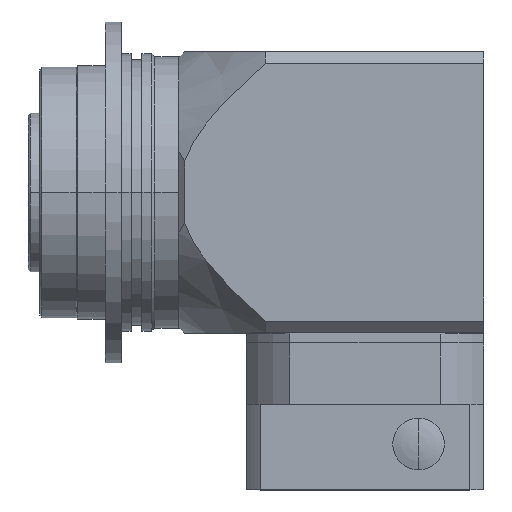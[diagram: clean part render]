
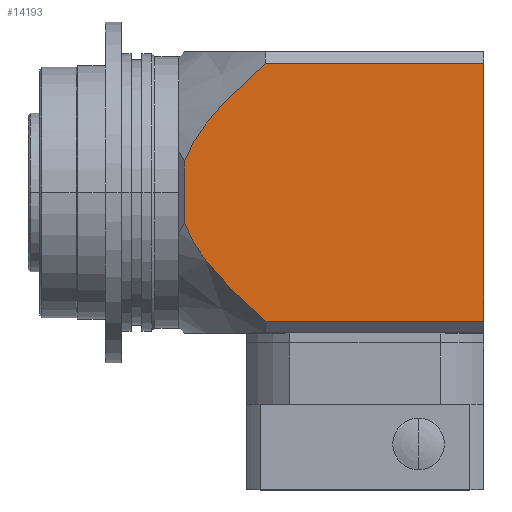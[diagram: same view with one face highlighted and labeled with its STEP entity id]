
A CAD part, top view. The second image highlights one B-rep face of the part: STEP entity #14193.
In plain terms, the highlighted planar face has unit normal (0, 0, 1).
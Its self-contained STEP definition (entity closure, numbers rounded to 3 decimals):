
#768 = CARTESIAN_POINT ( 'NONE',  ( 12.062, 23.364, 35.5 ) ) ;
#928 = VERTEX_POINT ( 'NONE', #12986 ) ;
#1100 = CARTESIAN_POINT ( 'NONE',  ( 19.839, -30.758, 35.5 ) ) ;
#1252 = VERTEX_POINT ( 'NONE', #7392 ) ;
#1969 = VERTEX_POINT ( 'NONE', #13948 ) ;
#2212 = FACE_OUTER_BOUND ( 'NONE', #17069, .T. ) ;
#2315 = DIRECTION ( 'NONE',  ( -1., 0., 0. ) ) ;
#2496 = CARTESIAN_POINT ( 'NONE',  ( 8.501, 19.324, 35.5 ) ) ;
#2566 = ORIENTED_EDGE ( 'NONE', *, *, #3447, .T. ) ;
#2757 = CARTESIAN_POINT ( 'NONE',  ( 3.821, -12.758, 35.5 ) ) ;
#3325 = ORIENTED_EDGE ( 'NONE', *, *, #9839, .T. ) ;
#3447 = EDGE_CURVE ( 'NONE', #18143, #1969, #18177, .T. ) ;
#4224 = CARTESIAN_POINT ( 'NONE',  ( 6.023, 16.126, 35.5 ) ) ;
#4473 = CARTESIAN_POINT ( 'NONE',  ( 5.664, -15.593, 35.5 ) ) ;
#4848 = B_SPLINE_CURVE_WITH_KNOTS ( 'NONE', 3,
 ( #7633, #17949, #21389, #11083, #768, #12808, #2496, #14518, #4224, #16264, #5952, #18012, #7716, #19731, #9443, #21461 ),
 .UNSPECIFIED., .F., .F.,
 ( 4, 2, 2, 2, 2, 2, 2, 4 ),
 ( 0.054, 0.063, 0.071, 0.075, 0.079, 0.083, 0.085, 0.087 ),
 .UNSPECIFIED. ) ;
#5471 = VECTOR ( 'NONE', #2315, 1000. ) ;
#5647 = ORIENTED_EDGE ( 'NONE', *, *, #18904, .T. ) ;
#5952 = CARTESIAN_POINT ( 'NONE',  ( 3.815, 12.749, 35.5 ) ) ;
#6208 = CARTESIAN_POINT ( 'NONE',  ( 6.862, -17.241, 35.5 ) ) ;
#6844 = LINE ( 'NONE', #13976, #11976 ) ;
#7138 = DIRECTION ( 'NONE',  ( 0., -1., 0. ) ) ;
#7175 = CARTESIAN_POINT ( 'NONE',  ( 0., 0., 35.5 ) ) ;
#7223 = ORIENTED_EDGE ( 'NONE', *, *, #19290, .T. ) ;
#7294 = EDGE_CURVE ( 'NONE', #21164, #18143, #21263, .T. ) ;
#7392 = CARTESIAN_POINT ( 'NONE',  ( 1.5, -7.889, 35.5 ) ) ;
#7633 = CARTESIAN_POINT ( 'NONE',  ( 21.876, 32.5, 35.5 ) ) ;
#7716 = CARTESIAN_POINT ( 'NONE',  ( 2.554, 10.355, 35.5 ) ) ;
#7980 = CARTESIAN_POINT ( 'NONE',  ( 8.532, -19.362, 35.5 ) ) ;
#8503 = VECTOR ( 'NONE', #14085, 1000. ) ;
#8852 = B_SPLINE_CURVE_WITH_KNOTS ( 'NONE', 3,
 ( #9637, #19914, #13075, #2757, #14774, #4473, #16529, #6208, #18272, #7980, #19987, #9710, #21730, #11434, #1100, #13149 ),
 .UNSPECIFIED., .F., .F.,
 ( 4, 2, 2, 2, 2, 2, 2, 4 ),
 ( 0.103, 0.107, 0.111, 0.113, 0.115, 0.119, 0.127, 0.135 ),
 .UNSPECIFIED. ) ;
#9001 = DIRECTION ( 'NONE',  ( 1., 0., 0. ) ) ;
#9022 = LINE ( 'NONE', #16020, #5471 ) ;
#9443 = CARTESIAN_POINT ( 'NONE',  ( 1.735, 8.514, 35.5 ) ) ;
#9637 = CARTESIAN_POINT ( 'NONE',  ( 1.5, -7.889, 35.5 ) ) ;
#9710 = CARTESIAN_POINT ( 'NONE',  ( 12.083, -23.386, 35.5 ) ) ;
#9839 = EDGE_CURVE ( 'NONE', #10223, #928, #4848, .T. ) ;
#10223 = VERTEX_POINT ( 'NONE', #20939 ) ;
#10576 = ORIENTED_EDGE ( 'NONE', *, *, #7294, .T. ) ;
#11083 = CARTESIAN_POINT ( 'NONE',  ( 13.947, 25.273, 35.5 ) ) ;
#11434 = CARTESIAN_POINT ( 'NONE',  ( 17.841, -28.975, 35.5 ) ) ;
#11976 = VECTOR ( 'NONE', #7138, 1000. ) ;
#12122 = VECTOR ( 'NONE', #19032, 1000. ) ;
#12380 = PLANE ( 'NONE',  #13970 ) ;
#12808 = CARTESIAN_POINT ( 'NONE',  ( 9.374, 20.355, 35.5 ) ) ;
#12986 = CARTESIAN_POINT ( 'NONE',  ( 1.5, 7.889, 35.5 ) ) ;
#13075 = CARTESIAN_POINT ( 'NONE',  ( 2.546, -10.384, 35.5 ) ) ;
#13149 = CARTESIAN_POINT ( 'NONE',  ( 21.876, -32.5, 35.5 ) ) ;
#13948 = CARTESIAN_POINT ( 'NONE',  ( 77., 32.5, 35.5 ) ) ;
#13970 = AXIS2_PLACEMENT_3D ( 'NONE', #7175, #19307, #9001 ) ;
#13976 = CARTESIAN_POINT ( 'NONE',  ( 1.5, -35.5, 35.5 ) ) ;
#14085 = DIRECTION ( 'NONE',  ( 0., 1., 0. ) ) ;
#14193 = ADVANCED_FACE ( 'NONE', ( #2212 ), #12380, .T. ) ;
#14518 = CARTESIAN_POINT ( 'NONE',  ( 6.824, 17.209, 35.5 ) ) ;
#14774 = CARTESIAN_POINT ( 'NONE',  ( 4.527, -13.909, 35.5 ) ) ;
#15113 = CARTESIAN_POINT ( 'NONE',  ( 77., -32.5, 35.5 ) ) ;
#16020 = CARTESIAN_POINT ( 'NONE',  ( 0., 32.5, 35.5 ) ) ;
#16264 = CARTESIAN_POINT ( 'NONE',  ( 4.519, 13.896, 35.5 ) ) ;
#16340 = EDGE_CURVE ( 'NONE', #1252, #21164, #8852, .T. ) ;
#16529 = CARTESIAN_POINT ( 'NONE',  ( 6.058, -16.149, 35.5 ) ) ;
#17069 = EDGE_LOOP ( 'NONE', ( #5647, #3325, #7223, #18377, #10576, #2566 ) ) ;
#17949 = CARTESIAN_POINT ( 'NONE',  ( 19.835, 30.755, 35.5 ) ) ;
#18012 = CARTESIAN_POINT ( 'NONE',  ( 2.857, 10.962, 35.5 ) ) ;
#18021 = CARTESIAN_POINT ( 'NONE',  ( 21.876, -32.5, 35.5 ) ) ;
#18143 = VERTEX_POINT ( 'NONE', #15113 ) ;
#18177 = LINE ( 'NONE', #20945, #8503 ) ;
#18272 = CARTESIAN_POINT ( 'NONE',  ( 7.274, -17.777, 35.5 ) ) ;
#18377 = ORIENTED_EDGE ( 'NONE', *, *, #16340, .T. ) ;
#18904 = EDGE_CURVE ( 'NONE', #1969, #10223, #9022, .T. ) ;
#19032 = DIRECTION ( 'NONE',  ( 1., 0., 0. ) ) ;
#19290 = EDGE_CURVE ( 'NONE', #928, #1252, #6844, .T. ) ;
#19307 = DIRECTION ( 'NONE',  ( 0., 0., 1. ) ) ;
#19731 = CARTESIAN_POINT ( 'NONE',  ( 1.994, 9.132, 35.5 ) ) ;
#19914 = CARTESIAN_POINT ( 'NONE',  ( 1.978, -9.16, 35.5 ) ) ;
#19987 = CARTESIAN_POINT ( 'NONE',  ( 9.402, -20.386, 35.5 ) ) ;
#20728 = CARTESIAN_POINT ( 'NONE',  ( 77., -32.5, 35.5 ) ) ;
#20939 = CARTESIAN_POINT ( 'NONE',  ( 21.876, 32.5, 35.5 ) ) ;
#20945 = CARTESIAN_POINT ( 'NONE',  ( 77., -38., 35.5 ) ) ;
#21164 = VERTEX_POINT ( 'NONE', #18021 ) ;
#21263 = LINE ( 'NONE', #20728, #12122 ) ;
#21389 = CARTESIAN_POINT ( 'NONE',  ( 17.833, 28.968, 35.5 ) ) ;
#21461 = CARTESIAN_POINT ( 'NONE',  ( 1.5, 7.889, 35.5 ) ) ;
#21730 = CARTESIAN_POINT ( 'NONE',  ( 13.963, -25.289, 35.5 ) ) ;
